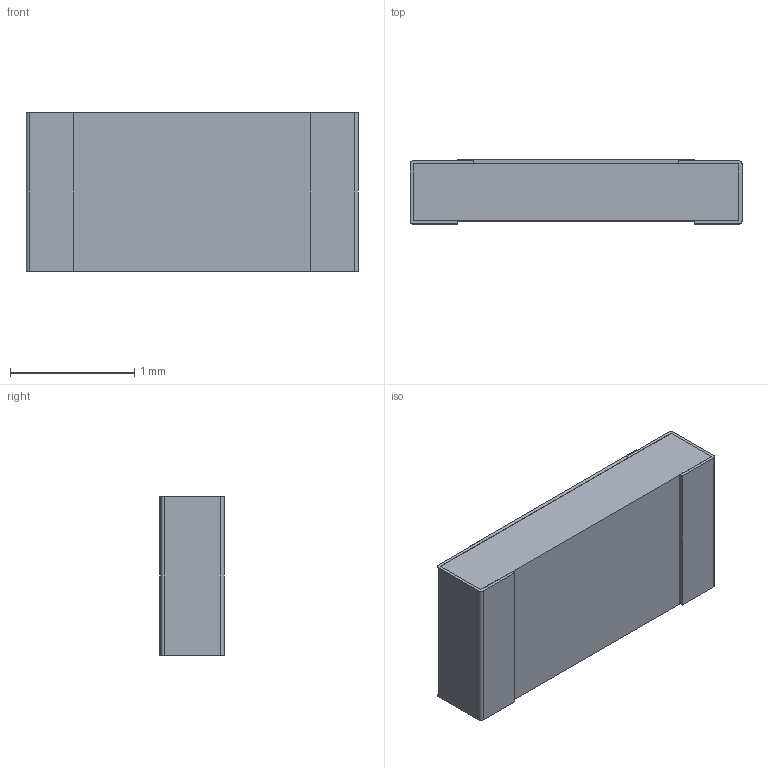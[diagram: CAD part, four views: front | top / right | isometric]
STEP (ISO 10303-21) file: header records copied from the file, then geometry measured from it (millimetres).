
FILE_DESCRIPTION(/* description */ (''),/* implementation_level */ '2;1');
FILE_NAME(/* name */ 'C:\Users\Public\Documents\Autodesk\Inventor LT 2014\Workspace\Vishay\STEP Files\PTN1005.stp',/* time_stamp */ '2020-01-08T14:52:38-06:00',/* author */ ('Neil'),/* organization */ (''),/* preprocessor_version */ 'ST-DEVELOPER v15.2',/* originating_system */ 'Autodesk Inventor LT ',/* authorisation */ '');
FILE_SCHEMA (('AUTOMOTIVE_DESIGN { 1 0 10303 214 3 1 1 }'));
Length unit declared in the file: inch
Products named in the file (1): PTN1005
Bounding box: 2.67 x 0.52 x 1.27 mm (x, y, z)
Volume: 1.7 mm3; surface area: 25.1 mm2
Topology: 5 solids, 5 shells, 98 faces, 264 edges, 176 vertices
Faces by surface type: plane 82, cylinder 16
Entity records: 3090 total; most frequent: CARTESIAN_POINT 539, ORIENTED_EDGE 528, DIRECTION 494, EDGE_CURVE 264, LINE 232, VECTOR 232, VERTEX_POINT 176, AXIS2_PLACEMENT_3D 131
